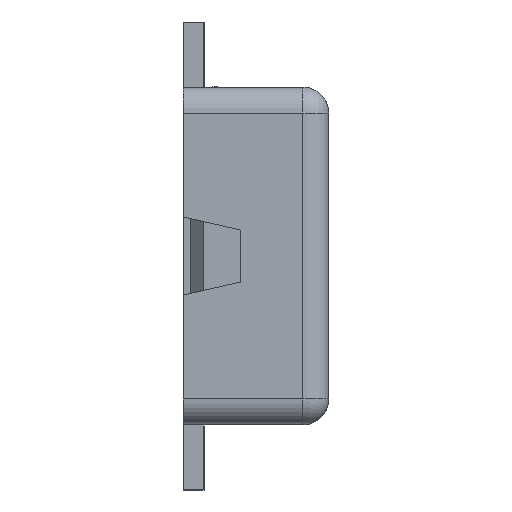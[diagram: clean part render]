
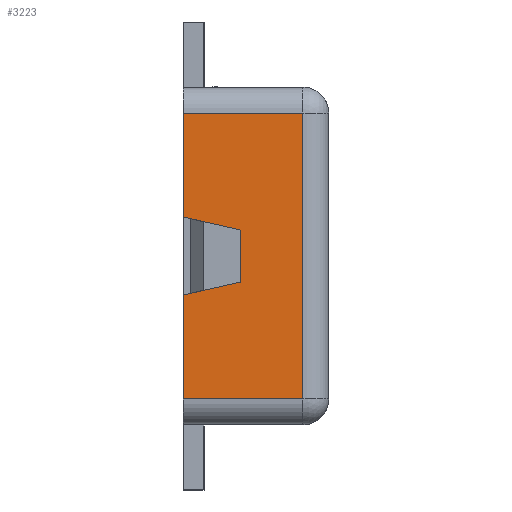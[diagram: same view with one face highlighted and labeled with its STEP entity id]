
A CAD part, left-side view. The second image highlights one B-rep face of the part: STEP entity #3223.
In plain terms, the highlighted planar face has unit normal (-1, 0, 0).
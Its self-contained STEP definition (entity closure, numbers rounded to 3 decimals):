
#261 = VERTEX_POINT ( 'NONE', #1789 ) ;
#271 = LINE ( 'NONE', #3979, #6561 ) ;
#512 = VERTEX_POINT ( 'NONE', #5309 ) ;
#610 = EDGE_CURVE ( 'NONE', #3038, #8987, #2272, .T. ) ;
#754 = CARTESIAN_POINT ( 'NONE',  ( -6.43, 0.24, 0.55 ) ) ;
#1347 = CARTESIAN_POINT ( 'NONE',  ( -6.43, 0.7, -0.58 ) ) ;
#1434 = CARTESIAN_POINT ( 'NONE',  ( -6.43, 0.24, 0.45 ) ) ;
#1518 = CARTESIAN_POINT ( 'NONE',  ( -6.43, 0.48, 0.1 ) ) ;
#1789 = CARTESIAN_POINT ( 'NONE',  ( -6.43, 0.7, -0.15 ) ) ;
#2272 = LINE ( 'NONE', #1347, #10504 ) ;
#2486 = LINE ( 'NONE', #11869, #6635 ) ;
#2700 = EDGE_CURVE ( 'NONE', #3078, #261, #4483, .T. ) ;
#2849 = EDGE_CURVE ( 'NONE', #3037, #8770, #9873, .T. ) ;
#2922 = EDGE_CURVE ( 'NONE', #3033, #512, #9812, .T. ) ;
#3033 = VERTEX_POINT ( 'NONE', #754 ) ;
#3037 = VERTEX_POINT ( 'NONE', #8204 ) ;
#3038 = VERTEX_POINT ( 'NONE', #6268 ) ;
#3077 = FACE_OUTER_BOUND ( 'NONE', #8062, .T. ) ;
#3078 = VERTEX_POINT ( 'NONE', #7261 ) ;
#3223 = ADVANCED_FACE ( 'NONE', ( #3077 ), #4262, .T. ) ;
#3397 = VECTOR ( 'NONE', #7338, 1000. ) ;
#3548 = CARTESIAN_POINT ( 'NONE',  ( -6.43, 0.7, -0.58 ) ) ;
#3979 = CARTESIAN_POINT ( 'NONE',  ( -6.43, 0.7, 0.15 ) ) ;
#4262 = PLANE ( 'NONE',  #8564 ) ;
#4456 = EDGE_CURVE ( 'NONE', #3038, #8770, #271, .T. ) ;
#4483 = LINE ( 'NONE', #3548, #3397 ) ;
#5078 = DIRECTION ( 'NONE',  ( 0., 0., 1. ) ) ;
#5309 = CARTESIAN_POINT ( 'NONE',  ( -6.43, 0.24, -0.55 ) ) ;
#5380 = LINE ( 'NONE', #9237, #9753 ) ;
#5467 = EDGE_CURVE ( 'NONE', #3037, #261, #5380, .T. ) ;
#6073 = CARTESIAN_POINT ( 'NONE',  ( -6.43, 0.48, 0.21 ) ) ;
#6268 = CARTESIAN_POINT ( 'NONE',  ( -6.43, 0.7, 0.15 ) ) ;
#6561 = VECTOR ( 'NONE', #8529, 1000. ) ;
#6635 = VECTOR ( 'NONE', #10076, 1000. ) ;
#6960 = ORIENTED_EDGE ( 'NONE', *, *, #9155, .F. ) ;
#7261 = CARTESIAN_POINT ( 'NONE',  ( -6.43, 0.7, -0.55 ) ) ;
#7338 = DIRECTION ( 'NONE',  ( 0., 0., 1. ) ) ;
#7371 = DIRECTION ( 'NONE',  ( 0., 0.975, -0.222 ) ) ;
#7662 = DIRECTION ( 'NONE',  ( 0., 1., 0. ) ) ;
#7828 = CARTESIAN_POINT ( 'NONE',  ( -6.43, 0.7, 0.55 ) ) ;
#8062 = EDGE_LOOP ( 'NONE', ( #8332, #9177, #8310, #9357, #12160, #6960, #9704, #9008 ) ) ;
#8074 = DIRECTION ( 'NONE',  ( 0., 0., -1. ) ) ;
#8204 = CARTESIAN_POINT ( 'NONE',  ( -6.43, 0.48, -0.1 ) ) ;
#8310 = ORIENTED_EDGE ( 'NONE', *, *, #2700, .F. ) ;
#8332 = ORIENTED_EDGE ( 'NONE', *, *, #2849, .F. ) ;
#8529 = DIRECTION ( 'NONE',  ( 0., -0.975, -0.222 ) ) ;
#8564 = AXIS2_PLACEMENT_3D ( 'NONE', #9858, #9990, #10853 ) ;
#8770 = VERTEX_POINT ( 'NONE', #1518 ) ;
#8920 = DIRECTION ( 'NONE',  ( 0., 0., 1. ) ) ;
#8987 = VERTEX_POINT ( 'NONE', #7828 ) ;
#9008 = ORIENTED_EDGE ( 'NONE', *, *, #4456, .T. ) ;
#9151 = VECTOR ( 'NONE', #5078, 1000. ) ;
#9155 = EDGE_CURVE ( 'NONE', #8987, #3033, #2486, .T. ) ;
#9177 = ORIENTED_EDGE ( 'NONE', *, *, #5467, .T. ) ;
#9237 = CARTESIAN_POINT ( 'NONE',  ( -6.43, 0.48, -0.1 ) ) ;
#9357 = ORIENTED_EDGE ( 'NONE', *, *, #11223, .F. ) ;
#9704 = ORIENTED_EDGE ( 'NONE', *, *, #610, .F. ) ;
#9753 = VECTOR ( 'NONE', #7371, 1000. ) ;
#9812 = LINE ( 'NONE', #1434, #10351 ) ;
#9858 = CARTESIAN_POINT ( 'NONE',  ( -6.43, 0.27, 0.45 ) ) ;
#9873 = LINE ( 'NONE', #6073, #9151 ) ;
#9990 = DIRECTION ( 'NONE',  ( -1., 0., 0. ) ) ;
#10076 = DIRECTION ( 'NONE',  ( 0., -1., 0. ) ) ;
#10285 = VECTOR ( 'NONE', #7662, 1000. ) ;
#10351 = VECTOR ( 'NONE', #8074, 1000. ) ;
#10355 = LINE ( 'NONE', #10531, #10285 ) ;
#10504 = VECTOR ( 'NONE', #8920, 1000. ) ;
#10531 = CARTESIAN_POINT ( 'NONE',  ( -6.43, 0.7, -0.55 ) ) ;
#10853 = DIRECTION ( 'NONE',  ( 0., 0., -1. ) ) ;
#11223 = EDGE_CURVE ( 'NONE', #512, #3078, #10355, .T. ) ;
#11869 = CARTESIAN_POINT ( 'NONE',  ( -6.43, 0.27, 0.55 ) ) ;
#12160 = ORIENTED_EDGE ( 'NONE', *, *, #2922, .F. ) ;
